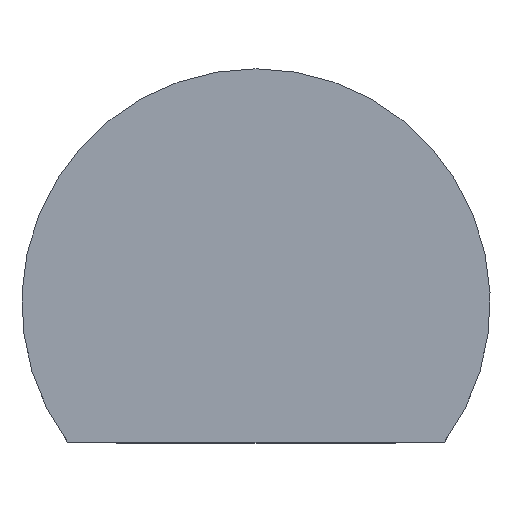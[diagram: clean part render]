
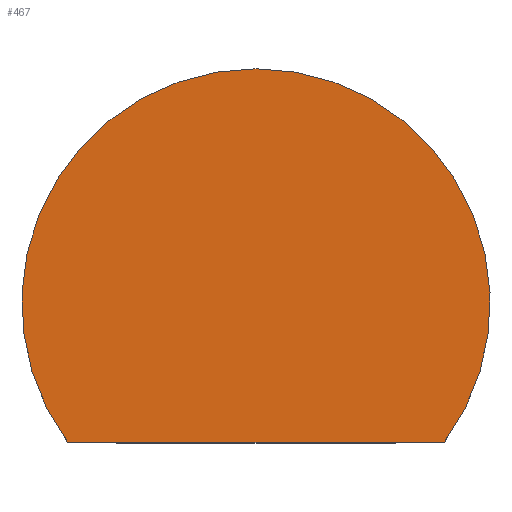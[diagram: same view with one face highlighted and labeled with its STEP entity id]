
A CAD part, top view. The second image highlights one B-rep face of the part: STEP entity #467.
In plain terms, the highlighted planar face has unit normal (0, 0, 1).
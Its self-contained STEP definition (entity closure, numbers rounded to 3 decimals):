
#36=CIRCLE('',#502,8.);
#60=FACE_OUTER_BOUND('',#86,.T.);
#86=EDGE_LOOP('',(#393,#394));
#107=LINE('',#1814,#133);
#133=VECTOR('',#549,10.);
#222=VERTEX_POINT('',#1812);
#223=VERTEX_POINT('',#1813);
#285=EDGE_CURVE('',#222,#223,#107,.T.);
#286=EDGE_CURVE('',#223,#222,#36,.T.);
#393=ORIENTED_EDGE('',*,*,#285,.T.);
#394=ORIENTED_EDGE('',*,*,#286,.T.);
#443=PLANE('',#501);
#467=ADVANCED_FACE('',(#60),#443,.T.);
#501=AXIS2_PLACEMENT_3D('',#1811,#547,#548);
#502=AXIS2_PLACEMENT_3D('',#1815,#550,#551);
#547=DIRECTION('center_axis',(0.,0.,1.));
#548=DIRECTION('ref_axis',(0.,-1.,0.));
#549=DIRECTION('',(1.,0.,0.));
#550=DIRECTION('center_axis',(0.,0.,1.));
#551=DIRECTION('ref_axis',(0.,-1.,0.));
#1811=CARTESIAN_POINT('Origin',(0.,0.,6.005));
#1812=CARTESIAN_POINT('',(-6.437,-4.75,6.005));
#1813=CARTESIAN_POINT('',(6.437,-4.75,6.005));
#1814=CARTESIAN_POINT('',(3.219,-4.75,6.005));
#1815=CARTESIAN_POINT('Origin',(0.,0.,6.005));
